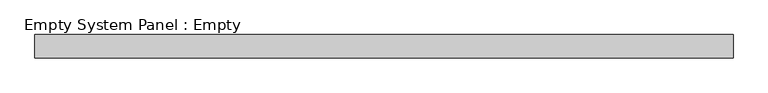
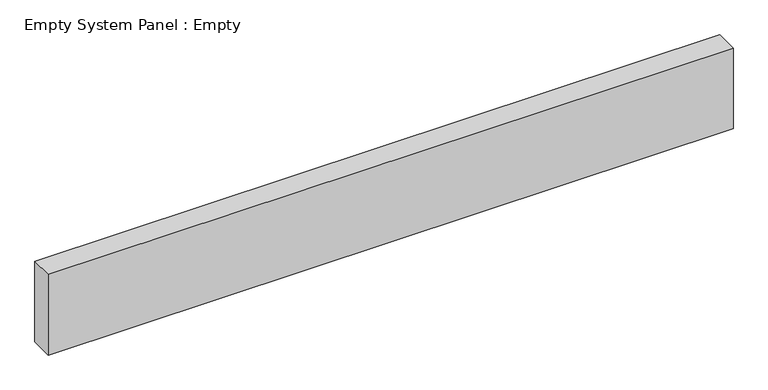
"""IFC4 building model written with IfcOpenShell, lengths in millimetres: plate geometry, Empty System Panel : Empty."""

from ifc_helpers import new_model, si_unit, origin, origin_with_axes, place, context, project, spatial, polyline, outline, extrude, source, transform, mapped, element, save


def empty_system_panel_empty_1240f5db(model_context):
    return source(origin(), model_context, "Body", "SweptSolid", [
        extrude(outline(polyline([(1500.0, -50.0), (-1500.0, -50.0), (-1500.0, 50.0), (1500.0, 50.0), (1500.0, -50.0)])), origin_with_axes(), (0.0, 0.0, 1.0), 373.8370491),
    ])


if __name__ == "__main__":
    model = new_model("IFC4")
    model_context = context("Model", 3, world=origin())
    ifc_project = project(units=[si_unit("LENGTHUNIT", "METRE", prefix="MILLI")], contexts=[model_context])
    site = spatial("IfcSite", under=ifc_project)
    building = spatial("IfcBuilding", under=site)
    placement = place(None, origin())
    empty_system_panel_empty_shape = empty_system_panel_empty_1240f5db(model_context)
    element("IfcPlate", 1, ObjectType="Empty System Panel : Empty", at=placement, inside=building, context=model_context, shape_type="MappedRepresentation", body=[
        mapped(empty_system_panel_empty_shape, transform((0.0, 0.0, 0.0), x_axis=(1.0, 0.0, 0.0), y_axis=(0.0, 1.0, 0.0), z_axis=(0.0, 0.0, 1.0))),
    ])
    save(model, "model.ifc")
